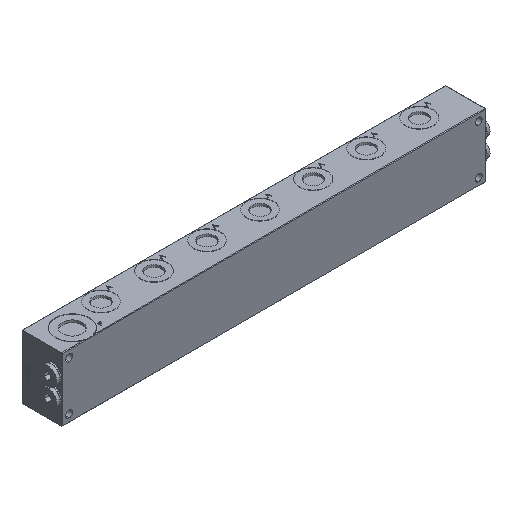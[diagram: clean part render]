
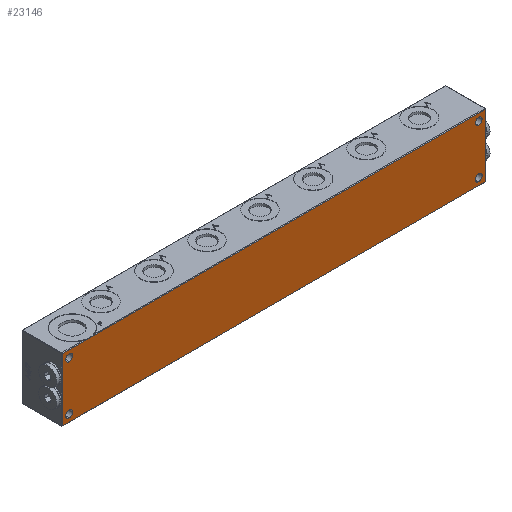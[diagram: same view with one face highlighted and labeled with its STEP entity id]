
A CAD part, isometric view. The second image highlights one B-rep face of the part: STEP entity #23146.
In plain terms, the highlighted planar face has unit normal (0, -1, 0).
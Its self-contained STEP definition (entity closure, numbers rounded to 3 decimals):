
#26 = CIRCLE ( 'NONE', #6532, 3.25 ) ;
#453 = ORIENTED_EDGE ( 'NONE', *, *, #13044, .T. ) ;
#1063 = CIRCLE ( 'NONE', #29226, 3.25 ) ;
#1134 = PLANE ( 'NONE',  #19733 ) ;
#1383 = DIRECTION ( 'NONE',  ( 0., 0., 1. ) ) ;
#1541 = CARTESIAN_POINT ( 'NONE',  ( 193., -19., 23. ) ) ;
#1681 = FACE_BOUND ( 'NONE', #17621, .T. ) ;
#1829 = CARTESIAN_POINT ( 'NONE',  ( 193., -19., 19.75 ) ) ;
#1891 = CIRCLE ( 'NONE', #29323, 3.25 ) ;
#2056 = CARTESIAN_POINT ( 'NONE',  ( 193., -19., -19.75 ) ) ;
#2447 = CARTESIAN_POINT ( 'NONE',  ( 193., -19., -23. ) ) ;
#3348 = ORIENTED_EDGE ( 'NONE', *, *, #19661, .T. ) ;
#3916 = DIRECTION ( 'NONE',  ( 0., 1., 0. ) ) ;
#4171 = DIRECTION ( 'NONE',  ( 0., 0., 1. ) ) ;
#4368 = VECTOR ( 'NONE', #21986, 1000. ) ;
#4964 = VERTEX_POINT ( 'NONE', #11526 ) ;
#5080 = DIRECTION ( 'NONE',  ( 0., 0., 1. ) ) ;
#5101 = CARTESIAN_POINT ( 'NONE',  ( -193., -19., 19.75 ) ) ;
#5161 = DIRECTION ( 'NONE',  ( 0., 1., 0. ) ) ;
#5179 = VECTOR ( 'NONE', #16737, 1000. ) ;
#5344 = CIRCLE ( 'NONE', #19037, 3.25 ) ;
#6521 = VERTEX_POINT ( 'NONE', #8953 ) ;
#6532 = AXIS2_PLACEMENT_3D ( 'NONE', #20801, #5161, #23488 ) ;
#6668 = DIRECTION ( 'NONE',  ( 0., 1., 0. ) ) ;
#7798 = VERTEX_POINT ( 'NONE', #2056 ) ;
#7810 = FACE_OUTER_BOUND ( 'NONE', #20151, .T. ) ;
#8056 = CIRCLE ( 'NONE', #29229, 3.25 ) ;
#8249 = CARTESIAN_POINT ( 'NONE',  ( -199.5, -19., 29.5 ) ) ;
#8291 = AXIS2_PLACEMENT_3D ( 'NONE', #1541, #19851, #4171 ) ;
#8708 = EDGE_CURVE ( 'NONE', #10592, #21657, #5344, .T. ) ;
#8817 = EDGE_CURVE ( 'NONE', #18012, #7798, #32466, .T. ) ;
#8953 = CARTESIAN_POINT ( 'NONE',  ( -199.5, -19., -29.5 ) ) ;
#8975 = DIRECTION ( 'NONE',  ( -1., 0., 0. ) ) ;
#9101 = ORIENTED_EDGE ( 'NONE', *, *, #8708, .T. ) ;
#9130 = ORIENTED_EDGE ( 'NONE', *, *, #19614, .T. ) ;
#9206 = CARTESIAN_POINT ( 'NONE',  ( -193., -19., 23. ) ) ;
#10180 = CARTESIAN_POINT ( 'NONE',  ( 193., -19., -26.25 ) ) ;
#10248 = VERTEX_POINT ( 'NONE', #8249 ) ;
#10592 = VERTEX_POINT ( 'NONE', #5101 ) ;
#11300 = LINE ( 'NONE', #32118, #4368 ) ;
#11495 = ORIENTED_EDGE ( 'NONE', *, *, #19672, .T. ) ;
#11526 = CARTESIAN_POINT ( 'NONE',  ( -193., -19., -26.25 ) ) ;
#11656 = CARTESIAN_POINT ( 'NONE',  ( -200., -19., -30. ) ) ;
#11702 = DIRECTION ( 'NONE',  ( 0., 1., 0. ) ) ;
#11788 = DIRECTION ( 'NONE',  ( 0., 0., 1. ) ) ;
#11909 = ORIENTED_EDGE ( 'NONE', *, *, #19721, .T. ) ;
#12130 = VECTOR ( 'NONE', #8975, 1000. ) ;
#12494 = CARTESIAN_POINT ( 'NONE',  ( -193., -19., 26.25 ) ) ;
#12805 = CIRCLE ( 'NONE', #8291, 3.25 ) ;
#13044 = EDGE_CURVE ( 'NONE', #20799, #30512, #12805, .T. ) ;
#13827 = EDGE_CURVE ( 'NONE', #4964, #32804, #26, .T. ) ;
#13932 = FACE_BOUND ( 'NONE', #14895, .T. ) ;
#14299 = DIRECTION ( 'NONE',  ( 1., 0., 0. ) ) ;
#14317 = DIRECTION ( 'NONE',  ( 0., 0., -1. ) ) ;
#14895 = EDGE_LOOP ( 'NONE', ( #11909, #30166 ) ) ;
#14989 = LINE ( 'NONE', #29868, #28821 ) ;
#15220 = EDGE_LOOP ( 'NONE', ( #28245, #453 ) ) ;
#16103 = EDGE_LOOP ( 'NONE', ( #20907, #32914 ) ) ;
#16400 = VERTEX_POINT ( 'NONE', #29847 ) ;
#16737 = DIRECTION ( 'NONE',  ( 1., 0., 0. ) ) ;
#17067 = DIRECTION ( 'NONE',  ( 0., 1., 0. ) ) ;
#17621 = EDGE_LOOP ( 'NONE', ( #11495, #9101 ) ) ;
#18012 = VERTEX_POINT ( 'NONE', #10180 ) ;
#18262 = CARTESIAN_POINT ( 'NONE',  ( -193., -19., -19.75 ) ) ;
#18843 = AXIS2_PLACEMENT_3D ( 'NONE', #2447, #20717, #5080 ) ;
#19037 = AXIS2_PLACEMENT_3D ( 'NONE', #27376, #11702, #29893 ) ;
#19097 = LINE ( 'NONE', #31905, #12130 ) ;
#19595 = CARTESIAN_POINT ( 'NONE',  ( -193., -19., -23. ) ) ;
#19614 = EDGE_CURVE ( 'NONE', #6521, #16400, #31929, .T. ) ;
#19621 = EDGE_CURVE ( 'NONE', #16400, #23358, #11300, .T. ) ;
#19623 = EDGE_CURVE ( 'NONE', #23358, #10248, #19097, .T. ) ;
#19661 = EDGE_CURVE ( 'NONE', #10248, #6521, #14989, .T. ) ;
#19670 = EDGE_CURVE ( 'NONE', #32804, #4964, #1891, .T. ) ;
#19672 = EDGE_CURVE ( 'NONE', #21657, #10592, #21954, .T. ) ;
#19717 = EDGE_CURVE ( 'NONE', #30512, #20799, #8056, .T. ) ;
#19721 = EDGE_CURVE ( 'NONE', #7798, #18012, #1063, .T. ) ;
#19733 = AXIS2_PLACEMENT_3D ( 'NONE', #11656, #29852, #14299 ) ;
#19851 = DIRECTION ( 'NONE',  ( 0., 1., 0. ) ) ;
#20151 = EDGE_LOOP ( 'NONE', ( #9130, #21351, #25069, #3348 ) ) ;
#20717 = DIRECTION ( 'NONE',  ( 0., 1., 0. ) ) ;
#20799 = VERTEX_POINT ( 'NONE', #1829 ) ;
#20801 = CARTESIAN_POINT ( 'NONE',  ( -193., -19., -23. ) ) ;
#20879 = FACE_BOUND ( 'NONE', #15220, .T. ) ;
#20907 = ORIENTED_EDGE ( 'NONE', *, *, #19670, .T. ) ;
#21351 = ORIENTED_EDGE ( 'NONE', *, *, #19621, .T. ) ;
#21657 = VERTEX_POINT ( 'NONE', #12494 ) ;
#21954 = CIRCLE ( 'NONE', #29273, 3.25 ) ;
#21986 = DIRECTION ( 'NONE',  ( 0., 0., 1. ) ) ;
#22233 = DIRECTION ( 'NONE',  ( 0., 0., 1. ) ) ;
#22346 = CARTESIAN_POINT ( 'NONE',  ( 193., -19., -23. ) ) ;
#23146 = ADVANCED_FACE ( 'NONE', ( #7810, #27850, #1681, #20879, #13932 ), #1134, .T. ) ;
#23226 = CARTESIAN_POINT ( 'NONE',  ( 199.5, -19., 29.5 ) ) ;
#23358 = VERTEX_POINT ( 'NONE', #23226 ) ;
#23488 = DIRECTION ( 'NONE',  ( 0., 0., 1. ) ) ;
#24976 = DIRECTION ( 'NONE',  ( 0., 0., 1. ) ) ;
#25069 = ORIENTED_EDGE ( 'NONE', *, *, #19623, .T. ) ;
#27376 = CARTESIAN_POINT ( 'NONE',  ( -193., -19., 23. ) ) ;
#27456 = DIRECTION ( 'NONE',  ( 0., 1., 0. ) ) ;
#27850 = FACE_BOUND ( 'NONE', #16103, .T. ) ;
#28245 = ORIENTED_EDGE ( 'NONE', *, *, #19717, .T. ) ;
#28821 = VECTOR ( 'NONE', #14317, 1000. ) ;
#29226 = AXIS2_PLACEMENT_3D ( 'NONE', #22346, #6668, #24976 ) ;
#29229 = AXIS2_PLACEMENT_3D ( 'NONE', #32445, #17067, #1383 ) ;
#29273 = AXIS2_PLACEMENT_3D ( 'NONE', #9206, #27456, #11788 ) ;
#29323 = AXIS2_PLACEMENT_3D ( 'NONE', #19595, #3916, #22233 ) ;
#29647 = CARTESIAN_POINT ( 'NONE',  ( -200., -19., -29.5 ) ) ;
#29847 = CARTESIAN_POINT ( 'NONE',  ( 199.5, -19., -29.5 ) ) ;
#29852 = DIRECTION ( 'NONE',  ( 0., -1., 0. ) ) ;
#29868 = CARTESIAN_POINT ( 'NONE',  ( -199.5, -19., -30. ) ) ;
#29893 = DIRECTION ( 'NONE',  ( 0., 0., 1. ) ) ;
#29936 = CARTESIAN_POINT ( 'NONE',  ( 193., -19., 26.25 ) ) ;
#30166 = ORIENTED_EDGE ( 'NONE', *, *, #8817, .T. ) ;
#30512 = VERTEX_POINT ( 'NONE', #29936 ) ;
#31905 = CARTESIAN_POINT ( 'NONE',  ( -200., -19., 29.5 ) ) ;
#31929 = LINE ( 'NONE', #29647, #5179 ) ;
#32118 = CARTESIAN_POINT ( 'NONE',  ( 199.5, -19., -30. ) ) ;
#32445 = CARTESIAN_POINT ( 'NONE',  ( 193., -19., 23. ) ) ;
#32466 = CIRCLE ( 'NONE', #18843, 3.25 ) ;
#32804 = VERTEX_POINT ( 'NONE', #18262 ) ;
#32914 = ORIENTED_EDGE ( 'NONE', *, *, #13827, .T. ) ;
